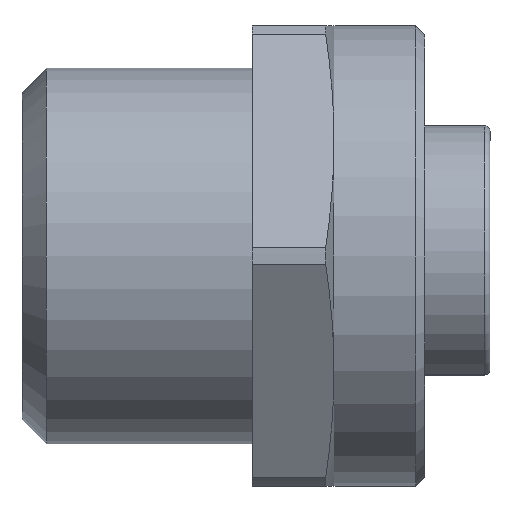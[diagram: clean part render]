
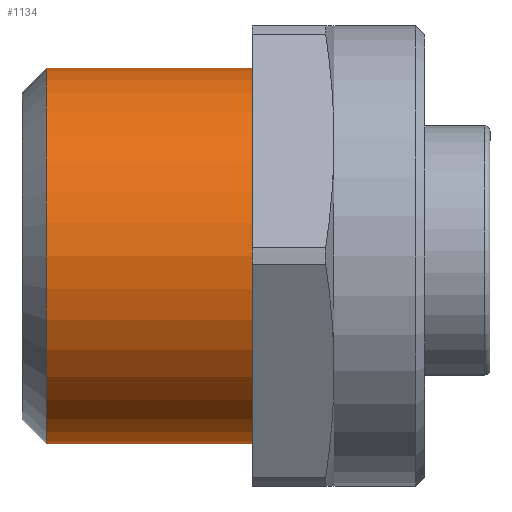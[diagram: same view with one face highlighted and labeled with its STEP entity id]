
A CAD part, left-side view. The second image highlights one B-rep face of the part: STEP entity #1134.
In plain terms, the highlighted cylindrical face has radius 10.35 mm (diameter 20.7 mm), a full revolution.
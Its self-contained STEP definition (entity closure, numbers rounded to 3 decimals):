
#156=FACE_BOUND('',#471,.T.);
#190=CYLINDRICAL_SURFACE('',#1308,10.35);
#347=FACE_OUTER_BOUND('',#470,.T.);
#470=EDGE_LOOP('',(#986));
#471=EDGE_LOOP('',(#987));
#551=CIRCLE('',#1307,10.35);
#552=CIRCLE('',#1309,10.35);
#647=VERTEX_POINT('',#1993);
#648=VERTEX_POINT('',#1996);
#767=EDGE_CURVE('',#647,#647,#551,.T.);
#768=EDGE_CURVE('',#648,#648,#552,.T.);
#986=ORIENTED_EDGE('',*,*,#768,.F.);
#987=ORIENTED_EDGE('',*,*,#767,.T.);
#1134=ADVANCED_FACE('',(#347,#156),#190,.T.);
#1307=AXIS2_PLACEMENT_3D('',#1994,#1656,#1657);
#1308=AXIS2_PLACEMENT_3D('',#1995,#1658,#1659);
#1309=AXIS2_PLACEMENT_3D('',#1997,#1660,#1661);
#1656=DIRECTION('center_axis',(0.,-1.,0.));
#1657=DIRECTION('ref_axis',(1.,0.,0.));
#1658=DIRECTION('center_axis',(0.,-1.,0.));
#1659=DIRECTION('ref_axis',(1.,0.,0.));
#1660=DIRECTION('center_axis',(0.,-1.,0.));
#1661=DIRECTION('ref_axis',(1.,0.,0.));
#1993=CARTESIAN_POINT('',(10.35,20.85,0.));
#1994=CARTESIAN_POINT('Origin',(0.,20.85,0.));
#1995=CARTESIAN_POINT('Origin',(0.,15.175,0.));
#1996=CARTESIAN_POINT('',(10.35,9.5,0.));
#1997=CARTESIAN_POINT('Origin',(0.,9.5,0.));
